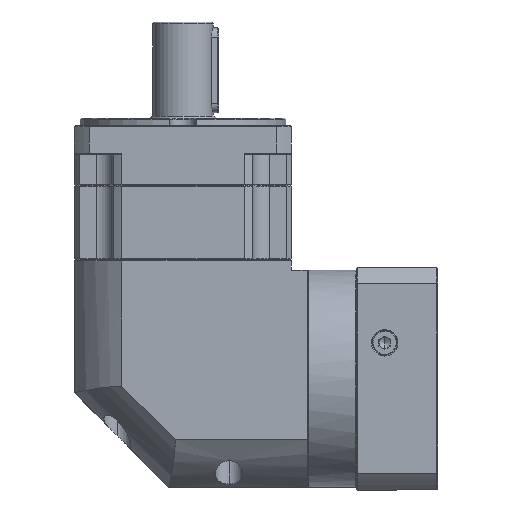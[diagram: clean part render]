
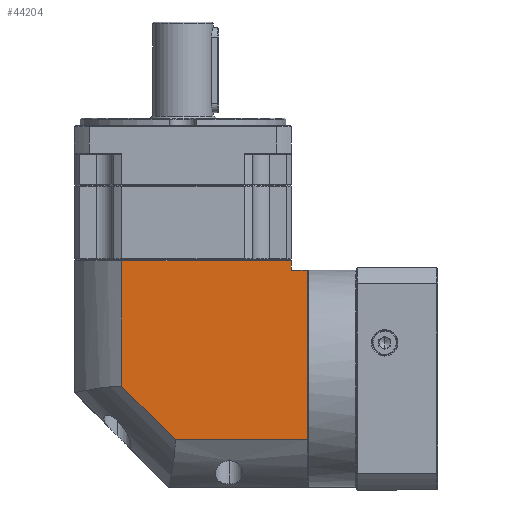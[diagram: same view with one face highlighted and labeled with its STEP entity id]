
A CAD part, left-side view. The second image highlights one B-rep face of the part: STEP entity #44204.
In plain terms, the highlighted planar face has unit normal (-1, 0, 0).
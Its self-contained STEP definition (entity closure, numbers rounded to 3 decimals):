
#4764 = EDGE_LOOP ( 'NONE', ( #53672, #131352, #64005, #50593, #103961, #104037, #134151 ) ) ;
#6035 = VERTEX_POINT ( 'NONE', #152639 ) ;
#7183 = CARTESIAN_POINT ( 'NONE',  ( -284.014, -8.932, 27.382 ) ) ;
#7659 = CARTESIAN_POINT ( 'NONE',  ( -284.014, 16.168, 27.382 ) ) ;
#13275 = DIRECTION ( 'NONE',  ( 0., 1., 0. ) ) ;
#13724 = CARTESIAN_POINT ( 'NONE',  ( -284.014, -98.832, 27.382 ) ) ;
#17779 = VECTOR ( 'NONE', #72225, 1000. ) ;
#18724 = CARTESIAN_POINT ( 'NONE',  ( -284.014, -107.232, -67.518 ) ) ;
#22611 = VECTOR ( 'NONE', #82012, 1000. ) ;
#29730 = EDGE_CURVE ( 'NONE', #94467, #122983, #85727, .T. ) ;
#31917 = DIRECTION ( 'NONE',  ( 0., 0.707, 0.707 ) ) ;
#40386 = CARTESIAN_POINT ( 'NONE',  ( -284.014, -107.232, 22.382 ) ) ;
#41876 = EDGE_CURVE ( 'NONE', #116771, #94467, #88612, .T. ) ;
#43301 = VECTOR ( 'NONE', #161845, 1000. ) ;
#44204 = ADVANCED_FACE ( 'NONE', ( #45442 ), #87254, .F. ) ;
#45442 = FACE_OUTER_BOUND ( 'NONE', #4764, .T. ) ;
#50045 = VECTOR ( 'NONE', #13275, 1000. ) ;
#50593 = ORIENTED_EDGE ( 'NONE', *, *, #41876, .F. ) ;
#53672 = ORIENTED_EDGE ( 'NONE', *, *, #108433, .F. ) ;
#60190 = CARTESIAN_POINT ( 'NONE',  ( -284.014, -98.832, 22.382 ) ) ;
#60862 = CARTESIAN_POINT ( 'NONE',  ( -284.014, 16.168, 33.882 ) ) ;
#64005 = ORIENTED_EDGE ( 'NONE', *, *, #29730, .F. ) ;
#64048 = EDGE_CURVE ( 'NONE', #122983, #6035, #128721, .T. ) ;
#65912 = VERTEX_POINT ( 'NONE', #60190 ) ;
#67999 = CARTESIAN_POINT ( 'NONE',  ( -284.014, -98.832, -92.618 ) ) ;
#72225 = DIRECTION ( 'NONE',  ( 0., 1., 0. ) ) ;
#72725 = EDGE_CURVE ( 'NONE', #157140, #156958, #128733, .T. ) ;
#74308 = DIRECTION ( 'NONE',  ( 0., 1., 0. ) ) ;
#82012 = DIRECTION ( 'NONE',  ( 0., 0., 1. ) ) ;
#83204 = LINE ( 'NONE', #67999, #43301 ) ;
#85727 = LINE ( 'NONE', #160508, #50045 ) ;
#87254 = PLANE ( 'NONE',  #131904 ) ;
#88612 = LINE ( 'NONE', #92597, #159929 ) ;
#92597 = CARTESIAN_POINT ( 'NONE',  ( -284.014, -107.232, 33.882 ) ) ;
#92978 = VECTOR ( 'NONE', #115709, 1000. ) ;
#94467 = VERTEX_POINT ( 'NONE', #18724 ) ;
#103961 = ORIENTED_EDGE ( 'NONE', *, *, #173920, .T. ) ;
#104037 = ORIENTED_EDGE ( 'NONE', *, *, #133059, .T. ) ;
#108433 = EDGE_CURVE ( 'NONE', #6035, #157140, #129748, .T. ) ;
#115709 = DIRECTION ( 'NONE',  ( 0., -1., 0. ) ) ;
#116771 = VERTEX_POINT ( 'NONE', #40386 ) ;
#122983 = VERTEX_POINT ( 'NONE', #166822 ) ;
#125842 = CARTESIAN_POINT ( 'NONE',  ( -284.014, -37.27, -67.518 ) ) ;
#128721 = LINE ( 'NONE', #125842, #164338 ) ;
#128733 = LINE ( 'NONE', #7659, #92978 ) ;
#129748 = LINE ( 'NONE', #148889, #22611 ) ;
#131352 = ORIENTED_EDGE ( 'NONE', *, *, #64048, .F. ) ;
#131904 = AXIS2_PLACEMENT_3D ( 'NONE', #60862, #154715, #74308 ) ;
#133059 = EDGE_CURVE ( 'NONE', #65912, #156958, #83204, .T. ) ;
#134151 = ORIENTED_EDGE ( 'NONE', *, *, #72725, .F. ) ;
#148889 = CARTESIAN_POINT ( 'NONE',  ( -284.014, -8.932, 33.882 ) ) ;
#152639 = CARTESIAN_POINT ( 'NONE',  ( -284.014, -8.932, -39.18 ) ) ;
#154715 = DIRECTION ( 'NONE',  ( 1., 0., 0. ) ) ;
#156387 = LINE ( 'NONE', #166163, #17779 ) ;
#156958 = VERTEX_POINT ( 'NONE', #13724 ) ;
#157140 = VERTEX_POINT ( 'NONE', #7183 ) ;
#159929 = VECTOR ( 'NONE', #173067, 1000. ) ;
#160508 = CARTESIAN_POINT ( 'NONE',  ( -284.014, 16.168, -67.518 ) ) ;
#161845 = DIRECTION ( 'NONE',  ( 0., 0., 1. ) ) ;
#164338 = VECTOR ( 'NONE', #31917, 1000. ) ;
#166163 = CARTESIAN_POINT ( 'NONE',  ( -284.014, -98.832, 22.382 ) ) ;
#166822 = CARTESIAN_POINT ( 'NONE',  ( -284.014, -37.27, -67.518 ) ) ;
#173067 = DIRECTION ( 'NONE',  ( 0., 0., -1. ) ) ;
#173920 = EDGE_CURVE ( 'NONE', #116771, #65912, #156387, .T. ) ;
